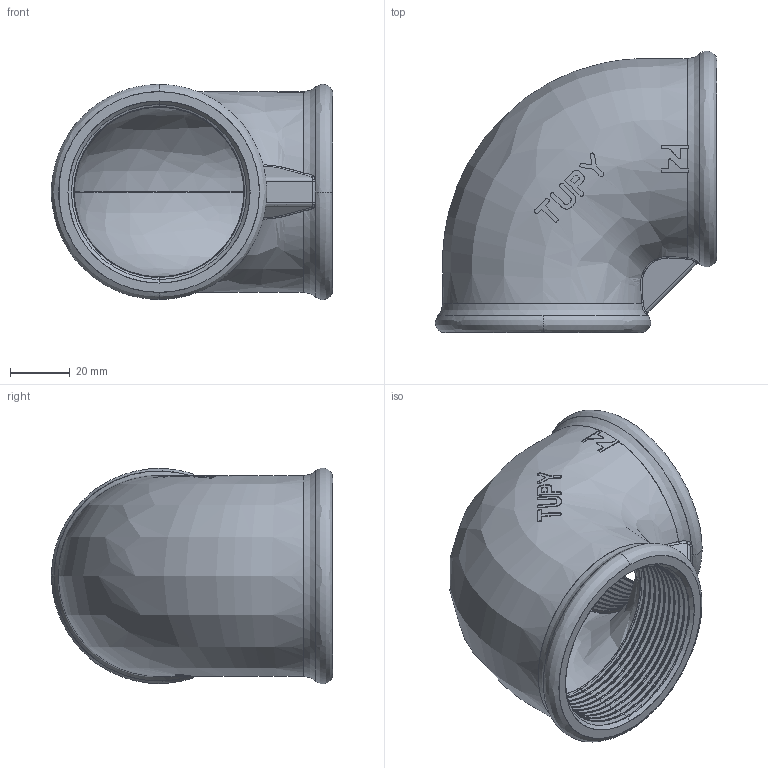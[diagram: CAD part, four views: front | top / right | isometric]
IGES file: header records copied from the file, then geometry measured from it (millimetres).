
Start section: SolidWorks IGES file using analytic representation for surfaces
Global section: file name: C:\Users\Joel Rosa\Desktop\Tubulação\12-07-OK\12-07-010.IGS; native system: SolidWorks 2011; preprocessor: SolidWorks 2011; author: Joel Rosa; date: 121204.003915; units: millimetre
Bounding box: 93.98 x 93.99 x 71.98 mm (x, y, z)
Surface area: 48369.6 mm2 (no closed solid volume)
Topology: 0 solids, 0 shells, 334 faces, 3421 edges, 3422 vertices
Faces by surface type: bspline 242, revolution 92
